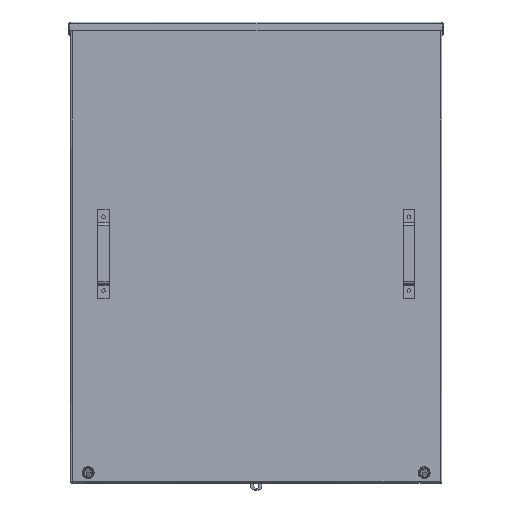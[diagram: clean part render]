
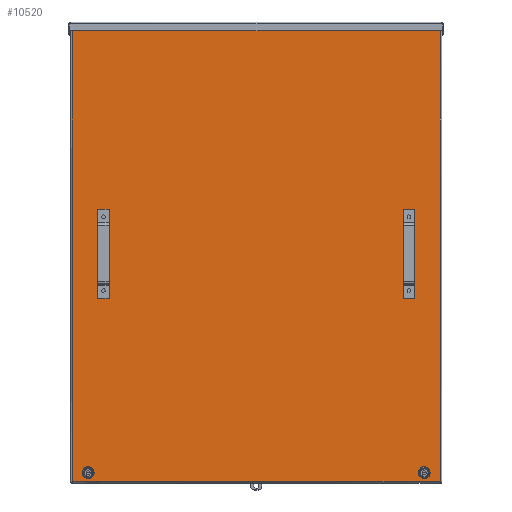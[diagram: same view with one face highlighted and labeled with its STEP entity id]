
A CAD part, top view. The second image highlights one B-rep face of the part: STEP entity #10520.
In plain terms, the highlighted free-form (B-spline) face has degree [1, 1] with [2, 2] control points.
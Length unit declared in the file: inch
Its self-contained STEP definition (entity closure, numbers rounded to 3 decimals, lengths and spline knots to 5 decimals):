
#8291=CARTESIAN_POINT('V66',(22.251,-0.055,
   12.624));
#8292=VERTEX_POINT('V66',#8291);
#8298=CARTESIAN_POINT('E90',(22.251,-0.055,
   12.624));
#8299=CARTESIAN_POINT('E90',(22.251,-0.055,
   12.3538));
#8300=CARTESIAN_POINT('E90',(22.017,-0.055,
   12.4889));
#8301=CARTESIAN_POINT('E90',(21.783,-0.055,
   12.624));
#8302=CARTESIAN_POINT('E90',(22.017,-0.055,
   12.7591));
#8303=CARTESIAN_POINT('E90',(22.251,-0.055,
   12.8942));
#8304=CARTESIAN_POINT('E90',(22.251,-0.055,
   12.624));
#8312=(BOUNDED_CURVE()B_SPLINE_CURVE(2,(#8298,#8299,#8300,#8301,
   #8302,#8303,#8304),.CIRCULAR_ARC.,.T.,.U.)
   B_SPLINE_CURVE_WITH_KNOTS((3,2,2,3),(0.0,0.33333,
   0.66667,1.0),.UNSPECIFIED.)CURVE()
   GEOMETRIC_REPRESENTATION_ITEM()RATIONAL_B_SPLINE_CURVE((1.0,
   0.5,1.0,0.5,1.0,0.5,1.0)
   )REPRESENTATION_ITEM('E90'));
#8313=EDGE_CURVE('E90',#8292,#8292,#8312,.T.);
#8360=CARTESIAN_POINT('V64',(2.251,-0.055,
   12.624));
#8361=VERTEX_POINT('V64',#8360);
#8367=CARTESIAN_POINT('E87',(2.251,-0.055,
   12.624));
#8368=CARTESIAN_POINT('E87',(2.251,-0.055,
   12.3538));
#8369=CARTESIAN_POINT('E87',(2.017,-0.055,
   12.4889));
#8370=CARTESIAN_POINT('E87',(1.783,-0.055,
   12.624));
#8371=CARTESIAN_POINT('E87',(2.017,-0.055,
   12.7591));
#8372=CARTESIAN_POINT('E87',(2.251,-0.055,
   12.8942));
#8373=CARTESIAN_POINT('E87',(2.251,-0.055,
   12.624));
#8381=(BOUNDED_CURVE()B_SPLINE_CURVE(2,(#8367,#8368,#8369,#8370,
   #8371,#8372,#8373),.CIRCULAR_ARC.,.T.,.U.)
   B_SPLINE_CURVE_WITH_KNOTS((3,2,2,3),(0.0,0.33333,
   0.66667,1.0),.UNSPECIFIED.)CURVE()
   GEOMETRIC_REPRESENTATION_ITEM()RATIONAL_B_SPLINE_CURVE((1.0,
   0.5,1.0,0.5,1.0,0.5,1.0)
   )REPRESENTATION_ITEM('E87'));
#8382=EDGE_CURVE('E87',#8361,#8361,#8381,.T.);
#8429=CARTESIAN_POINT('V62',(2.251,-0.055,
   17.468));
#8430=VERTEX_POINT('V62',#8429);
#8436=CARTESIAN_POINT('E84',(2.251,-0.055,
   17.468));
#8437=CARTESIAN_POINT('E84',(2.251,-0.055,
   17.1978));
#8438=CARTESIAN_POINT('E84',(2.017,-0.055,
   17.3329));
#8439=CARTESIAN_POINT('E84',(1.783,-0.055,
   17.468));
#8440=CARTESIAN_POINT('E84',(2.017,-0.055,
   17.6031));
#8441=CARTESIAN_POINT('E84',(2.251,-0.055,
   17.7382));
#8442=CARTESIAN_POINT('E84',(2.251,-0.055,
   17.468));
#8450=(BOUNDED_CURVE()B_SPLINE_CURVE(2,(#8436,#8437,#8438,#8439,
   #8440,#8441,#8442),.CIRCULAR_ARC.,.T.,.U.)
   B_SPLINE_CURVE_WITH_KNOTS((3,2,2,3),(0.0,0.33333,
   0.66667,1.0),.UNSPECIFIED.)CURVE()
   GEOMETRIC_REPRESENTATION_ITEM()RATIONAL_B_SPLINE_CURVE((1.0,
   0.5,1.0,0.5,1.0,0.5,1.0)
   )REPRESENTATION_ITEM('E84'));
#8451=EDGE_CURVE('E84',#8430,#8430,#8450,.T.);
#8498=CARTESIAN_POINT('V60',(22.251,-0.055,
   17.468));
#8499=VERTEX_POINT('V60',#8498);
#8505=CARTESIAN_POINT('E81',(22.251,-0.055,
   17.468));
#8506=CARTESIAN_POINT('E81',(22.251,-0.055,
   17.1978));
#8507=CARTESIAN_POINT('E81',(22.017,-0.055,
   17.3329));
#8508=CARTESIAN_POINT('E81',(21.783,-0.055,
   17.468));
#8509=CARTESIAN_POINT('E81',(22.017,-0.055,
   17.6031));
#8510=CARTESIAN_POINT('E81',(22.251,-0.055,
   17.7382));
#8511=CARTESIAN_POINT('E81',(22.251,-0.055,
   17.468));
#8519=(BOUNDED_CURVE()B_SPLINE_CURVE(2,(#8505,#8506,#8507,#8508,
   #8509,#8510,#8511),.CIRCULAR_ARC.,.T.,.U.)
   B_SPLINE_CURVE_WITH_KNOTS((3,2,2,3),(0.0,0.33333,
   0.66667,1.0),.UNSPECIFIED.)CURVE()
   GEOMETRIC_REPRESENTATION_ITEM()RATIONAL_B_SPLINE_CURVE((1.0,
   0.5,1.0,0.5,1.0,0.5,1.0)
   )REPRESENTATION_ITEM('E81'));
#8520=EDGE_CURVE('E81',#8499,#8499,#8519,.T.);
#8574=CARTESIAN_POINT('V86',(1.48018,-0.055,
   29.37));
#8575=VERTEX_POINT('V86',#8574);
#8589=CARTESIAN_POINT('E136',(1.48018,-0.055,
   29.37));
#8590=CARTESIAN_POINT('E136',(1.48018,-0.055,
   28.70285));
#8591=CARTESIAN_POINT('E136',(0.90241,-0.055,
   29.03643));
#8592=CARTESIAN_POINT('E136',(0.32464,-0.055,
   29.37));
#8593=CARTESIAN_POINT('E136',(0.90241,-0.055,
   29.70357));
#8594=CARTESIAN_POINT('E136',(1.48018,-0.055,
   30.03715));
#8595=CARTESIAN_POINT('E136',(1.48018,-0.055,
   29.37));
#8603=(BOUNDED_CURVE()B_SPLINE_CURVE(2,(#8589,#8590,#8591,#8592,
   #8593,#8594,#8595),.CIRCULAR_ARC.,.T.,.U.)
   B_SPLINE_CURVE_WITH_KNOTS((3,2,2,3),(0.0,64.0058,
   128.01159,192.01739),.UNSPECIFIED.)CURVE()
   GEOMETRIC_REPRESENTATION_ITEM()RATIONAL_B_SPLINE_CURVE((1.0,
   0.5,1.0,0.5,1.0,0.5,1.0)
   )REPRESENTATION_ITEM('E136'));
#8604=EDGE_CURVE('E136',#8575,#8575,#8603,.T.);
#9069=CARTESIAN_POINT('V76',(23.48018,-0.055,
   29.37));
#9070=VERTEX_POINT('V76',#9069);
#9084=CARTESIAN_POINT('E119',(23.48018,-0.055,
   29.37));
#9085=CARTESIAN_POINT('E119',(23.48018,-0.055,
   28.70285));
#9086=CARTESIAN_POINT('E119',(22.90241,-0.055,
   29.03643));
#9087=CARTESIAN_POINT('E119',(22.32464,-0.055,
   29.37));
#9088=CARTESIAN_POINT('E119',(22.90241,-0.055,
   29.70357));
#9089=CARTESIAN_POINT('E119',(23.48018,-0.055,
   30.03715));
#9090=CARTESIAN_POINT('E119',(23.48018,-0.055,
   29.37));
#9098=(BOUNDED_CURVE()B_SPLINE_CURVE(2,(#9084,#9085,#9086,#9087,
   #9088,#9089,#9090),.CIRCULAR_ARC.,.T.,.U.)
   B_SPLINE_CURVE_WITH_KNOTS((3,2,2,3),(0.0,64.0058,
   128.01159,192.01739),.UNSPECIFIED.)CURVE()
   GEOMETRIC_REPRESENTATION_ITEM()RATIONAL_B_SPLINE_CURVE((1.0,
   0.5,1.0,0.5,1.0,0.5,1.0)
   )REPRESENTATION_ITEM('E119'));
#9099=EDGE_CURVE('E119',#9070,#9070,#9098,.T.);
#9836=CARTESIAN_POINT('V26',(0.06,-0.055,
   29.945));
#9837=VERTEX_POINT('V26',#9836);
#9874=CARTESIAN_POINT('V39',(0.06,-0.055,
   0.));
#9875=VERTEX_POINT('V39',#9874);
#9876=CARTESIAN_POINT('E101',(0.06,-0.055,
   0.));
#9877=CARTESIAN_POINT('E101',(0.06,-0.055,
   29.945));
#9878=QUASI_UNIFORM_CURVE('E101',1,(#9876,#9877),.POLYLINE_FORM.,.F.,
   .U.);
#9879=EDGE_CURVE('E101',#9875,#9837,#9878,.T.);
#9921=CARTESIAN_POINT('V40',(24.13,-0.055,
   0.));
#9922=VERTEX_POINT('V40',#9921);
#9936=CARTESIAN_POINT('E50',(0.06,-0.055,
   0.0));
#9937=CARTESIAN_POINT('E50',(24.13,-0.055,
   0.0));
#9938=QUASI_UNIFORM_CURVE('E50',1,(#9936,#9937),.POLYLINE_FORM.,.F.,
   .U.);
#9939=EDGE_CURVE('E50',#9875,#9922,#9938,.T.);
#9977=CARTESIAN_POINT('V6',(24.13,-0.055,
   29.945));
#9978=VERTEX_POINT('V6',#9977);
#10022=CARTESIAN_POINT('E102',(24.13,-0.055,
   29.945));
#10023=CARTESIAN_POINT('E102',(24.13,-0.055,
   0.));
#10024=QUASI_UNIFORM_CURVE('E102',1,(#10022,#10023),.POLYLINE_FORM.,
   .F.,.U.);
#10025=EDGE_CURVE('E102',#9978,#9922,#10024,.T.);
#10478=CARTESIAN_POINT('E94',(0.06,-0.055,
   29.945));
#10479=CARTESIAN_POINT('E94',(24.13,-0.055,
   29.945));
#10480=QUASI_UNIFORM_CURVE('E94',1,(#10478,#10479),.POLYLINE_FORM.,
   .F.,.U.);
#10481=EDGE_CURVE('E94',#9837,#9978,#10480,.T.);
#10491=CARTESIAN_POINT('F56',(24.13394,-0.055,
   -0.00394));
#10492=CARTESIAN_POINT('F56',(24.13394,-0.055,
   29.94894));
#10493=CARTESIAN_POINT('F56',(0.05606,-0.055,
   -0.00394));
#10494=CARTESIAN_POINT('F56',(0.05606,-0.055,
   29.94894));
#10495=B_SPLINE_SURFACE_WITH_KNOTS('F56',1,1,((#10491,#10493),(
   #10492,#10494)),.PLANE_SURF.,.F.,.F.,.U.,(2,2),(2,2),(0.0,
   1.244),(0.0,1.0),.UNSPECIFIED.);
#10496=ORIENTED_EDGE('E94',*,*,#10481,.F.);
#10497=ORIENTED_EDGE('E101',*,*,#9879,.F.);
#10498=ORIENTED_EDGE('E50',*,*,#9939,.T.);
#10499=ORIENTED_EDGE('E102',*,*,#10025,.F.);
#10500=EDGE_LOOP('F56',(#10496,#10497,#10498,#10499));
#10501=FACE_OUTER_BOUND('F56',#10500,.T.);
#10502=ORIENTED_EDGE('E119',*,*,#9099,.T.);
#10503=EDGE_LOOP('F56',(#10502));
#10504=FACE_BOUND('F56',#10503,.T.);
#10505=ORIENTED_EDGE('E136',*,*,#8604,.T.);
#10506=EDGE_LOOP('F56',(#10505));
#10507=FACE_BOUND('F56',#10506,.T.);
#10508=ORIENTED_EDGE('E81',*,*,#8520,.T.);
#10509=EDGE_LOOP('F56',(#10508));
#10510=FACE_BOUND('F56',#10509,.T.);
#10511=ORIENTED_EDGE('E84',*,*,#8451,.T.);
#10512=EDGE_LOOP('F56',(#10511));
#10513=FACE_BOUND('F56',#10512,.T.);
#10514=ORIENTED_EDGE('E87',*,*,#8382,.T.);
#10515=EDGE_LOOP('F56',(#10514));
#10516=FACE_BOUND('F56',#10515,.T.);
#10517=ORIENTED_EDGE('E90',*,*,#8313,.T.);
#10518=EDGE_LOOP('F56',(#10517));
#10519=FACE_BOUND('F56',#10518,.T.);
#10520=ADVANCED_FACE('F56',(#10501,#10504,#10507,#10510,#10513,
   #10516,#10519),#10495,.T.);
